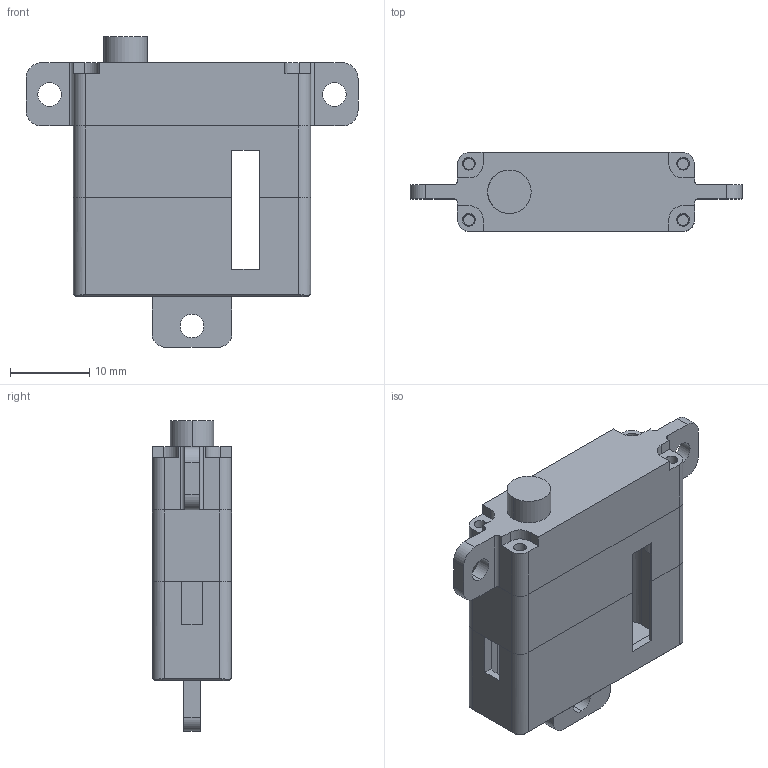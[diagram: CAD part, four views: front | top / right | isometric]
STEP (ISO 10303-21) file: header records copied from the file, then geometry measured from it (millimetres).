
FILE_DESCRIPTION (( 'STEP AP214' ), '1' );
FILE_NAME ('KST-X10MIN_DM.STEP', '2020-11-12T23:42:50', ( '微软用户' ), ( '微软中国' ), 'SwSTEP 2.0', 'SolidWorks 2016', '' );
FILE_SCHEMA (( 'AUTOMOTIVE_DESIGN' ));
Length unit declared in the file: millimetre
Products named in the file (2): KST-X10MIN_DM
Bounding box: 42 x 10 x 39.3 mm (x, y, z)
Volume: 3861.1 mm3; surface area: 6672 mm2
Topology: 4 solids, 4 shells, 271 faces, 768 edges, 510 vertices
Faces by surface type: plane 137, cylinder 129, cone 5
Entity records: 9205 total; most frequent: CARTESIAN_POINT 1824, DIRECTION 1561, ORIENTED_EDGE 1536, EDGE_CURVE 768, AXIS2_PLACEMENT_3D 557, VERTEX_POINT 510, LINE 447, VECTOR 447
